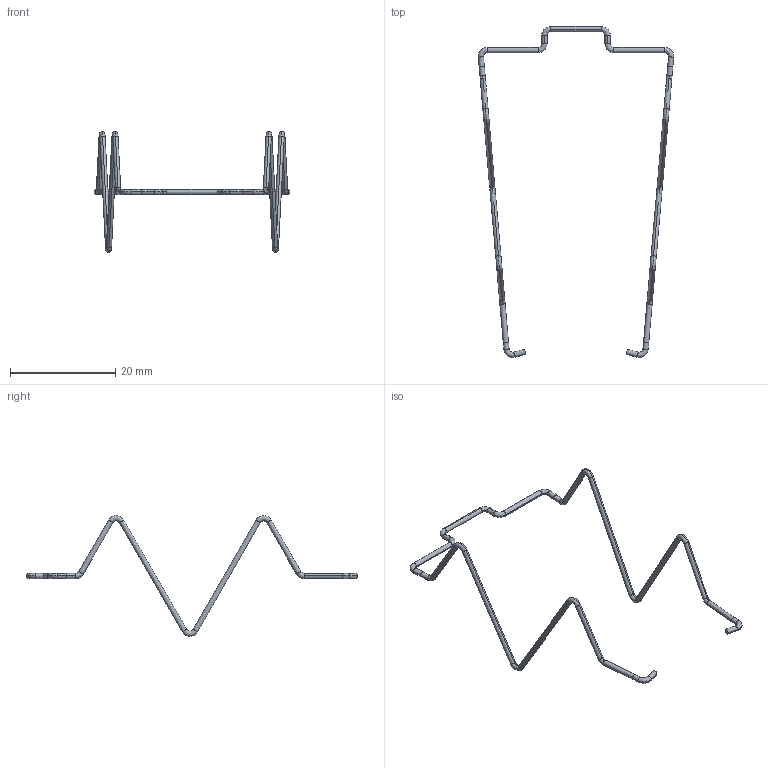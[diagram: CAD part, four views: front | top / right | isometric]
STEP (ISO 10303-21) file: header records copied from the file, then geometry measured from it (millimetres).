
FILE_DESCRIPTION (( 'STEP AP214' ), '1' );
FILE_NAME ('SU60M 芧倰縐銅8.383.590.03SW.STEP', '2025-02-08T02:27:17', ( 'admin' ), ( '' ), 'SwSTEP 2.0', 'SolidWorks 2022', '' );
FILE_SCHEMA (( 'AUTOMOTIVE_DESIGN' ));
Length unit declared in the file: millimetre
Products named in the file (1): SU60M 芧倰縐銅8.383.590.03SW
Bounding box: 37.19 x 62.99 x 23 mm (x, y, z)
Volume: 186.9 mm3; surface area: 749 mm2
Topology: 1 solids, 1 shells, 84 faces, 218 edges, 136 vertices
Faces by surface type: cylinder 46, torus 36, plane 2
Entity records: 2684 total; most frequent: DIRECTION 560, CARTESIAN_POINT 439, ORIENTED_EDGE 436, AXIS2_PLACEMENT_3D 257, EDGE_CURVE 218, CIRCLE 172, VERTEX_POINT 136, EDGE_LOOP 84
